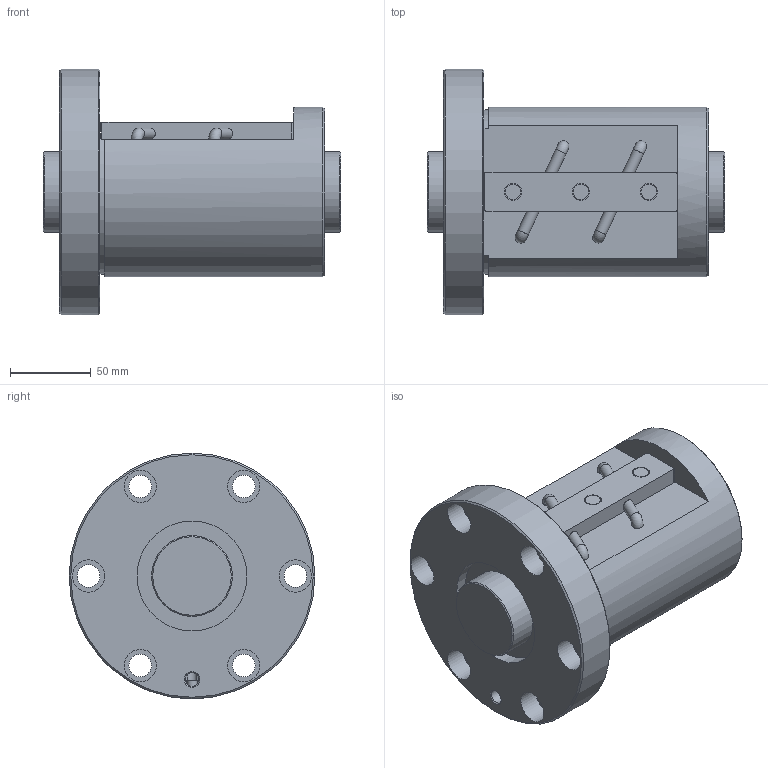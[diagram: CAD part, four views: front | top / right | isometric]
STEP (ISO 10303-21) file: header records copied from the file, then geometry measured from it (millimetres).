
FILE_DESCRIPTION(/* description */ ('STEP AP203'),/* implementation_level */ '2;1');
FILE_NAME(/* name */ 'BNF5016V-5RRG1+184LC0_000_rev',/* time_stamp */ '2024-08-06T09:49:44+02:00',/* author */ ('License CC BY-ND 4.0'),/* organization */ ('CADENAS'),/* preprocessor_version */ 'ST-DEVELOPER v19.3',/* originating_system */ 'PARTsolutions',/* authorisation */ ' ');
FILE_SCHEMA (('CONFIG_CONTROL_DESIGN'));
Length unit declared in the file: millimetre
Products named in the file (3): BNF5016V-5RRG1+184LC0_000_rev; BNF 5016-5RR000 Shaft; BNF 5016-5RR Nut
Assembly tree (2 placements, depth 2):
  BNF5016V-5RRG1+184LC0_000_rev
    BNF 5016-5RR000 Shaft
    BNF 5016-5RR Nut
Bounding box: 184 x 152 x 152 mm (x, y, z)
Volume: 1527276.6 mm3; surface area: 163024.9 mm2
Topology: 2 solids, 2 shells, 78 faces, 172 edges, 113 vertices
Faces by surface type: cylinder 37, plane 29, cone 8, torus 4
Full cylindrical faces by diameter (mm): 6.25 x2, 6.998 x4, 8.566 x1, 9.6 x3, 10.6 x3, 14 x6, 20 x6, 50 x2, 68 x2, 105 x1, 152 x1
Entity records: 1999 total; most frequent: DIRECTION 352, CARTESIAN_POINT 349, ORIENTED_EDGE 230, AXIS2_PLACEMENT_3D 164, EDGE_LOOP 160, FACE_BOUND 160, EDGE_CURVE 115, VERTEX_POINT 99
